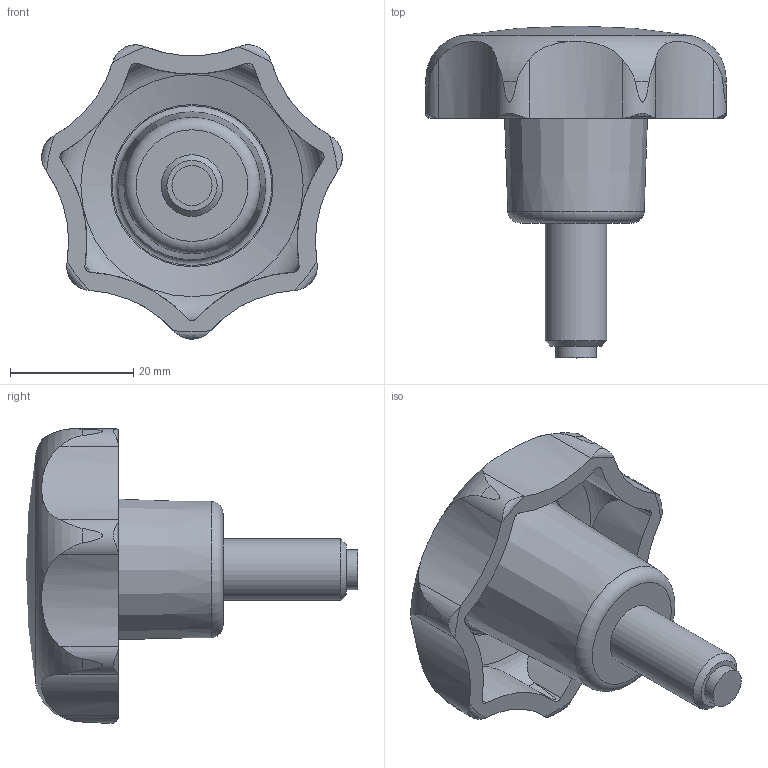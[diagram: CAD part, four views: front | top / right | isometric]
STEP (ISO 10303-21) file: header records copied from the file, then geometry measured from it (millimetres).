
FILE_DESCRIPTION( ( 'STEP AP203' ), '1' );
FILE_NAME( 'C:/Temp/Ganter_Step_05_03_2020/data/2_2/gn6336_10/Star knob GN 6336.10-50-M10-20-KU.stp', '2020-03-05T12:04:27', ( 'License CC BY-ND 4.0' ), ( 'CADENAS' ), ' ', 'PARTsolutions', ' ' );
FILE_SCHEMA( ( 'CONFIG_CONTROL_DESIGN' ) );
Length unit declared in the file: millimetre
Products named in the file (1): _Star knob GN 6336.10-50-M10-20-KU
Bounding box: 48.81 x 53.9 x 47.78 mm (x, y, z)
Volume: 22202.9 mm3; surface area: 8927.1 mm2
Topology: 1 solids, 1 shells, 64 faces, 189 edges, 129 vertices
Faces by surface type: cylinder 30, cone 17, torus 12, plane 4, sphere 1
Full cylindrical faces by diameter (mm): 6.5 x1, 10 x1
Entity records: 3108 total; most frequent: CARTESIAN_POINT 1546, ORIENTED_EDGE 346, DIRECTION 266, EDGE_CURVE 173, VERTEX_POINT 125, AXIS2_PLACEMENT_3D 119, B_SPLINE_CURVE_WITH_KNOTS 91, EDGE_LOOP 77
